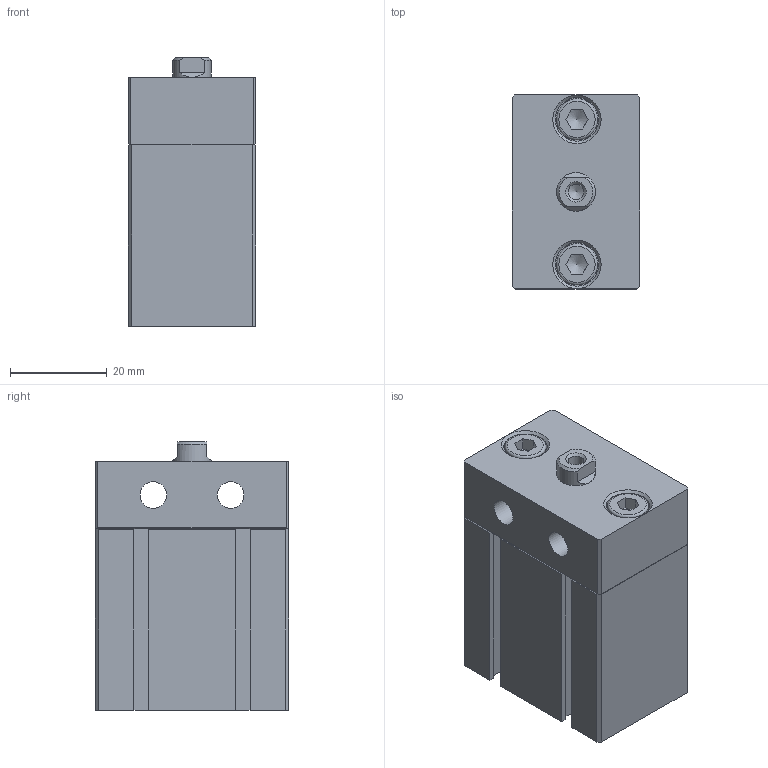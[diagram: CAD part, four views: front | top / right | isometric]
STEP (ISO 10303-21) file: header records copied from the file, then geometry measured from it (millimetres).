
FILE_DESCRIPTION((''),'2;1');
FILE_NAME('I:\3D電子目錄\氣缸\ND\ND\ND20\ND20x10.stp','2007-07-23T20:07:06',('Administrator'),(''),'Autodesk Inventor 11','Autodesk Inventor 11','');
FILE_SCHEMA(('AUTOMOTIVE_DESIGN { 1 0 10303 214 1 1 1 1 }'));
Length unit declared in the file: millimetre
Products named in the file (4): ND20; R 形環 22; ISO 4762 M5 x 10
Assembly tree (4 placements, depth 2):
  ND20
    ND20
    R 形環 22
    ISO 4762 M5 x 10  x2
Bounding box: 26.4 x 40.1 x 55.5 mm (x, y, z)
Volume: 47930.1 mm3; surface area: 14860.3 mm2
Topology: 5 solids, 5 shells, 160 faces, 400 edges, 257 vertices
Faces by surface type: plane 101, cylinder 26, bspline 16, cone 14, torus 3
Full cylindrical faces by diameter (mm): 1.5 x4, 5 x2, 5.5 x2, 8.5 x2, 9 x2, 13 x1, 21 x1
Entity records: 4401 total; most frequent: CARTESIAN_POINT 948, DIRECTION 676, ORIENTED_EDGE 654, EDGE_CURVE 327, VECTOR 234, LINE 234, VERTEX_POINT 231, AXIS2_PLACEMENT_3D 221
